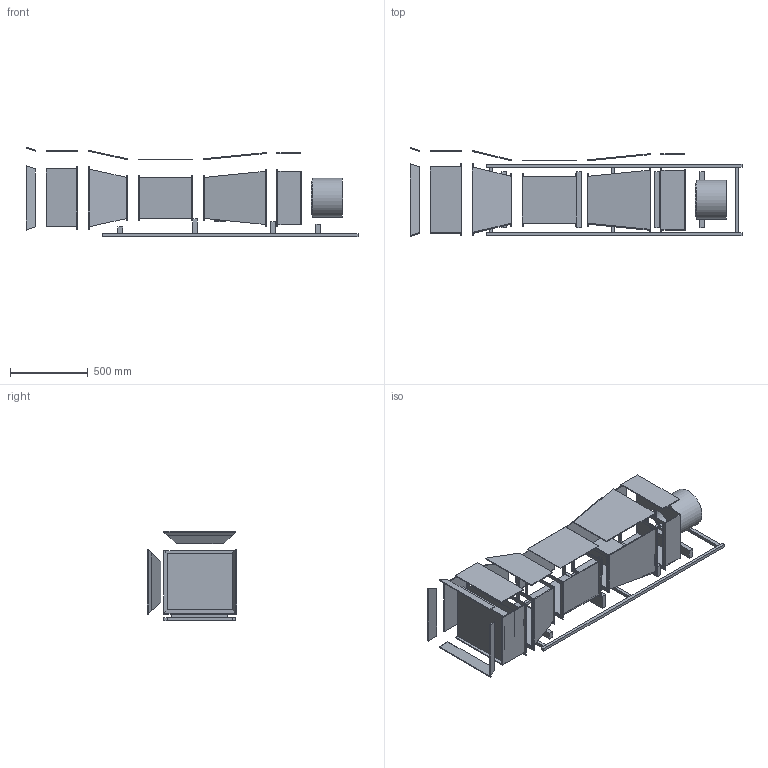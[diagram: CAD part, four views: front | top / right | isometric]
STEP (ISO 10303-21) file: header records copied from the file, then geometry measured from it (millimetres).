
FILE_DESCRIPTION(('Open CASCADE Model'),'2;1');
FILE_NAME('Open CASCADE Shape Model','2026-10-16T18:03:45',('Author'),( 'Open CASCADE'),'Open CASCADE STEP processor 7.8','Open CASCADE 7.8' ,'Unknown');
FILE_SCHEMA(('AUTOMOTIVE_DESIGN { 1 0 10303 214 1 1 1 1 }'));
Length unit declared in the file: millimetre
Products named in the file (55): FN_LAB_DESK_V02_EXPLODED; P01-T; P01-B; P01-R; P01-L; P02-T; P02-B; P02-R; P02-L; P03-T; P03-B; P03-R; P03-L; P04; P05; P06; P07; P08; P09; P10; P11; P12; P13; P14-T; P14-B; P14-R; P14-L; P15; P16; P17-T; P17-B; P17-R; P17-L; P18; E01; E02; E03; E04; E05; E06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
Assembly tree (54 placements, depth 2):
  FN_LAB_DESK_V02_EXPLODED
    P01-T
    P01-B
    P01-R
    P01-L
    P02-T
    P02-B
    P02-R
    P02-L
    P03-T
    P03-B
    P03-R
    P03-L
    P04
    P05
    P06
    P07
    P08
    P09
    P10
    P11
    P12
    P13
    P14-T
    P14-B
    P14-R
    P14-L
    P15
    P16
    P17-T
    P17-B
    P17-R
    P17-L
    P18
    E01
    E02
    E03
    E04
    E05
    E06
    F01
    F02
    F03
    F04
    F05
    F10
    F11
    F12
    F13
    A01
    A02
    A03
    A04
    A05
    R01
Bounding box: 2130 x 572 x 576 mm (x, y, z)
Volume: 31561432 mm3; surface area: 6897457.3 mm2
Topology: 54 solids, 54 shells, 387 faces, 837 edges, 558 vertices
Faces by surface type: plane 338, cylinder 49
Full cylindrical faces by diameter (mm): 5 x3, 5.5 x36, 8 x1, 192 x2, 200 x2, 210 x2, 250 x1
Entity records: 23042 total; most frequent: CARTESIAN_POINT 3991, DIRECTION 3413, LINE 2315, VECTOR 2315, ORIENTED_EDGE 1674, PCURVE 1674, DEFINITIONAL_REPRESENTATION 1674, EDGE_CURVE 837
